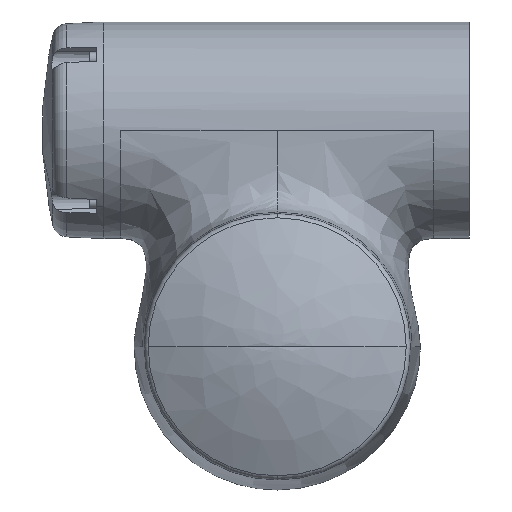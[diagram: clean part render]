
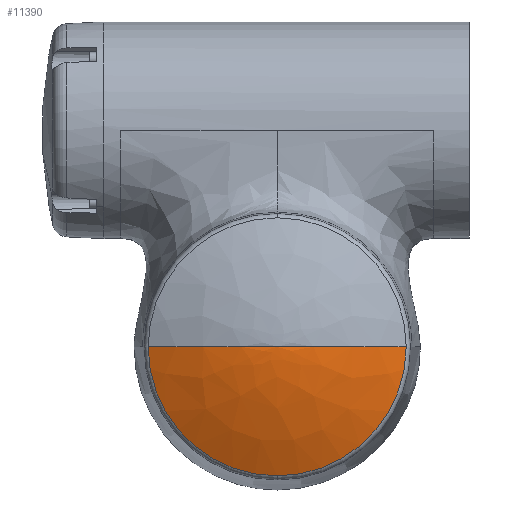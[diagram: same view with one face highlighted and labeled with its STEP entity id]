
A CAD part, front view. The second image highlights one B-rep face of the part: STEP entity #11390.
In plain terms, the highlighted free-form (B-spline) face has degree [2, 3] with [3, 4] control points.
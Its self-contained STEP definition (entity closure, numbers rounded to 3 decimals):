
#292 = EDGE_CURVE ( 'NONE', #7409, #5006, #2632, .T. ) ;
#561 = CARTESIAN_POINT ( 'NONE',  ( 715., -194.9, 1022.5 ) ) ;
#1411 = CARTESIAN_POINT ( 'NONE',  ( 690.792, -194.9, 974.083 ) ) ;
#1465 = CARTESIAN_POINT ( 'NONE',  ( 661.382, -181.029, 1022.5 ) ) ;
#1475 = ORIENTED_EDGE ( 'NONE', *, *, #7545, .T. ) ;
#1585 = CARTESIAN_POINT ( 'NONE',  ( 661.382, -181.029, 1022.5 ) ) ;
#2005 = AXIS2_PLACEMENT_3D ( 'NONE', #6016, #9883, #4197 ) ;
#2187 = CARTESIAN_POINT ( 'NONE',  ( 690.792, -194.9, 1022.5 ) ) ;
#2203 = FACE_OUTER_BOUND ( 'NONE', #10893, .T. ) ;
#2383 = CARTESIAN_POINT ( 'NONE',  ( 715., -194.9, 1022.5 ) ) ;
#2592 = B_SPLINE_CURVE_WITH_KNOTS ( 'NONE', 2,
 ( #9523, #2187, #9585 ),
 .UNSPECIFIED., .F., .F.,
 ( 3, 3 ),
 ( 0., 0.931 ),
 .UNSPECIFIED. ) ;
#2632 = CIRCLE ( 'NONE', #2005, 53.618 ) ;
#2756 = ORIENTED_EDGE ( 'NONE', *, *, #3184, .F. ) ;
#3184 = EDGE_CURVE ( 'NONE', #5323, #11234, #8209, .T. ) ;
#4026 = CARTESIAN_POINT ( 'NONE',  ( 661.382, -181.029, 915.264 ) ) ;
#4197 = DIRECTION ( 'NONE',  ( 0., 0., -1. ) ) ;
#4203 = CARTESIAN_POINT ( 'NONE',  ( 715., -194.9, 1022.5 ) ) ;
#4258 = CARTESIAN_POINT ( 'NONE',  ( 768.618, -181.029, 915.264 ) ) ;
#4934 = CARTESIAN_POINT ( 'NONE',  ( 768.618, -181.029, 1022.5 ) ) ;
#5006 = VERTEX_POINT ( 'NONE', #10586 ) ;
#5113 = CARTESIAN_POINT ( 'NONE',  ( 768.618, -181.029, 1022.5 ) ) ;
#5323 = VERTEX_POINT ( 'NONE', #11497 ) ;
#6016 = CARTESIAN_POINT ( 'NONE',  ( 715., -181.029, 1022.5 ) ) ;
#6709 = CARTESIAN_POINT ( 'NONE',  ( 715., -194.9, 1022.5 ) ) ;
#6747 = ORIENTED_EDGE ( 'NONE', *, *, #8738, .T. ) ;
#6912 = ORIENTED_EDGE ( 'NONE', *, *, #292, .T. ) ;
#6966 = CIRCLE ( 'NONE', #10049, 53.618 ) ;
#7409 = VERTEX_POINT ( 'NONE', #1585 ) ;
#7545 = EDGE_CURVE ( 'NONE', #5006, #11234, #6966, .T. ) ;
#7724 = CARTESIAN_POINT ( 'NONE',  ( 715., -194.9, 1022.5 ) ) ;
#8132 = DIRECTION ( 'NONE',  ( 0., -1., 0. ) ) ;
#8209 = B_SPLINE_CURVE_WITH_KNOTS ( 'NONE', 2,
 ( #6709, #11500, #10407 ),
 .UNSPECIFIED., .F., .F.,
 ( 3, 3 ),
 ( 0., 0.931 ),
 .UNSPECIFIED. ) ;
#8242 = CARTESIAN_POINT ( 'NONE',  ( 715., -181.029, 1022.5 ) ) ;
#8738 = EDGE_CURVE ( 'NONE', #5323, #7409, #2592, .T. ) ;
#8920 = DIRECTION ( 'NONE',  ( 0., 0., -1. ) ) ;
#9523 = CARTESIAN_POINT ( 'NONE',  ( 715., -194.9, 1022.5 ) ) ;
#9585 = CARTESIAN_POINT ( 'NONE',  ( 661.382, -181.029, 1022.5 ) ) ;
#9774 = CARTESIAN_POINT ( 'NONE',  ( 690.792, -194.9, 1022.5 ) ) ;
#9883 = DIRECTION ( 'NONE',  ( 0., -1., 0. ) ) ;
#10049 = AXIS2_PLACEMENT_3D ( 'NONE', #8242, #8132, #8920 ) ;
#10407 = CARTESIAN_POINT ( 'NONE',  ( 768.618, -181.029, 1022.5 ) ) ;
#10586 = CARTESIAN_POINT ( 'NONE',  ( 715., -181.029, 968.882 ) ) ;
#10598 =( BOUNDED_SURFACE ( )  B_SPLINE_SURFACE ( 2, 3, ( 
 ( #7724, #4203, #561, #2383 ),
 ( #11542, #11656, #1411, #9774 ),
 ( #5113, #4258, #4026, #1465 ) ),
 .UNSPECIFIED., .F., .F., .T. ) 
 B_SPLINE_SURFACE_WITH_KNOTS ( ( 3, 3 ),
 ( 4, 4 ),
 ( 0., 0.931 ),
 ( 0., 1. ),
 .UNSPECIFIED. ) 
 GEOMETRIC_REPRESENTATION_ITEM ( )  RATIONAL_B_SPLINE_SURFACE ( (
 ( 1., 0.333, 0.333, 1.),
 ( 1., 0.333, 0.333, 1.),
 ( 1., 0.333, 0.333, 1.) ) ) 
 REPRESENTATION_ITEM ( '' )  SURFACE ( )  );
#10893 = EDGE_LOOP ( 'NONE', ( #2756, #6747, #6912, #1475 ) ) ;
#11234 = VERTEX_POINT ( 'NONE', #4934 ) ;
#11390 = ADVANCED_FACE ( 'NONE', ( #2203 ), #10598, .F. ) ;
#11497 = CARTESIAN_POINT ( 'NONE',  ( 715., -194.9, 1022.5 ) ) ;
#11500 = CARTESIAN_POINT ( 'NONE',  ( 739.208, -194.9, 1022.5 ) ) ;
#11542 = CARTESIAN_POINT ( 'NONE',  ( 739.208, -194.9, 1022.5 ) ) ;
#11656 = CARTESIAN_POINT ( 'NONE',  ( 739.208, -194.9, 974.083 ) ) ;
